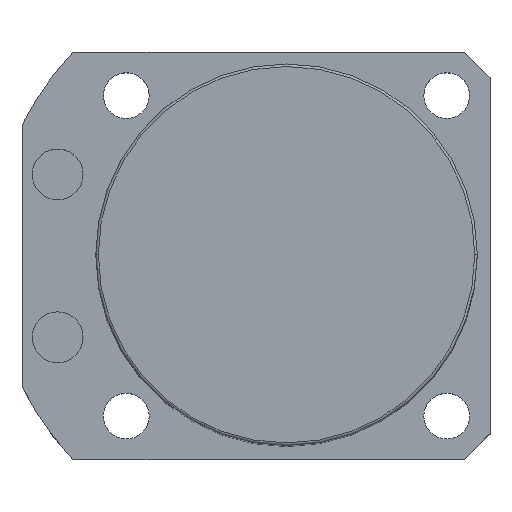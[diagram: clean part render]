
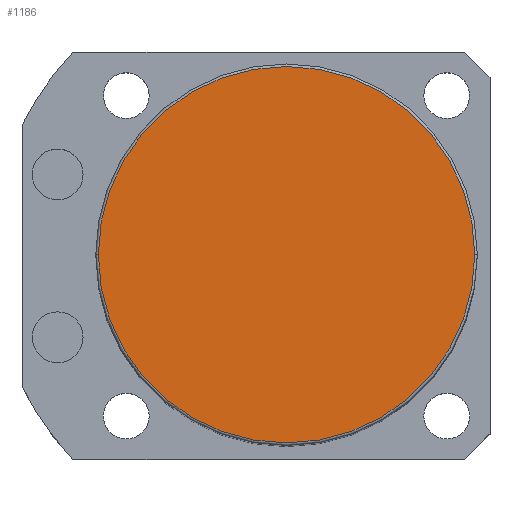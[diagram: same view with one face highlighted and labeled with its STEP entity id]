
A CAD part, top view. The second image highlights one B-rep face of the part: STEP entity #1186.
In plain terms, the highlighted planar face has unit normal (0, 0, 1).
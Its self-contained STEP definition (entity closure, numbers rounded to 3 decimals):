
#69 = DIRECTION ( 'NONE',  ( 0., 0., 1. ) ) ;
#158 = CIRCLE ( 'NONE', #1380, 37. ) ;
#661 = ORIENTED_EDGE ( 'NONE', *, *, #1750, .T. ) ;
#781 = DIRECTION ( 'NONE',  ( 1., 0., 0. ) ) ;
#959 = CIRCLE ( 'NONE', #1717, 37. ) ;
#1005 = CARTESIAN_POINT ( 'NONE',  ( 0., 0., 145.5 ) ) ;
#1176 = CARTESIAN_POINT ( 'NONE',  ( -37., 0., 145.5 ) ) ;
#1186 = ADVANCED_FACE ( 'NONE', ( #1297 ), #1634, .T. ) ;
#1196 = DIRECTION ( 'NONE',  ( 0., 0., 1. ) ) ;
#1297 = FACE_OUTER_BOUND ( 'NONE', #1458, .T. ) ;
#1380 = AXIS2_PLACEMENT_3D ( 'NONE', #1005, #69, #1953 ) ;
#1424 = CARTESIAN_POINT ( 'NONE',  ( 0., 0., 145.5 ) ) ;
#1458 = EDGE_LOOP ( 'NONE', ( #661, #2271 ) ) ;
#1524 = VERTEX_POINT ( 'NONE', #2026 ) ;
#1580 = CARTESIAN_POINT ( 'NONE',  ( 0., 0., 145.5 ) ) ;
#1634 = PLANE ( 'NONE',  #2286 ) ;
#1699 = DIRECTION ( 'NONE',  ( 1., 0., 0. ) ) ;
#1717 = AXIS2_PLACEMENT_3D ( 'NONE', #1580, #1196, #781 ) ;
#1750 = EDGE_CURVE ( 'NONE', #1524, #1876, #959, .T. ) ;
#1876 = VERTEX_POINT ( 'NONE', #1176 ) ;
#1893 = DIRECTION ( 'NONE',  ( 0., 0., 1. ) ) ;
#1953 = DIRECTION ( 'NONE',  ( 1., 0., 0. ) ) ;
#1971 = EDGE_CURVE ( 'NONE', #1876, #1524, #158, .T. ) ;
#2026 = CARTESIAN_POINT ( 'NONE',  ( 37., 0., 145.5 ) ) ;
#2271 = ORIENTED_EDGE ( 'NONE', *, *, #1971, .T. ) ;
#2286 = AXIS2_PLACEMENT_3D ( 'NONE', #1424, #1893, #1699 ) ;
